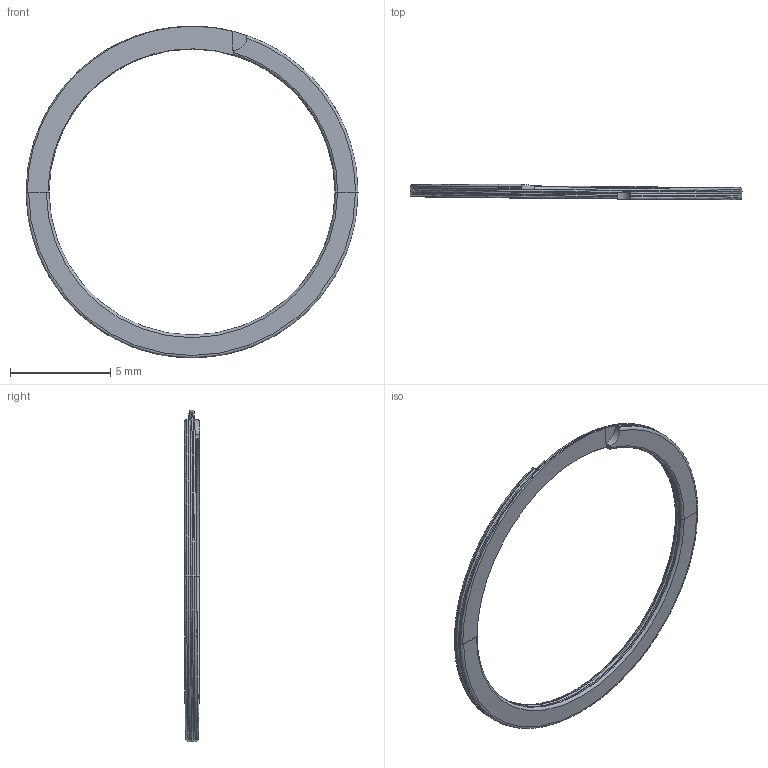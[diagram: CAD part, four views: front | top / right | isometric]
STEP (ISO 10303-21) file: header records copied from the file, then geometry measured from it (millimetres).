
FILE_DESCRIPTION (( 'STEP AP203' ), '1' );
FILE_NAME ('WH-62_Snap_Ring.STEP', '2020-12-18T22:10:05', ( '' ), ( '' ), 'SwSTEP 2.0', 'SolidWorks 2020', '' );
FILE_SCHEMA (( 'CONFIG_CONTROL_DESIGN' ));
Length unit declared in the file: inch
Products named in the file (1): WH-62_Snap_Ring
Bounding box: 16.54 x 0.75 x 16.54 mm (x, y, z)
Volume: 28.9 mm3; surface area: 157.5 mm2
Topology: 1 solids, 1 shells, 50 faces, 123 edges, 73 vertices
Faces by surface type: bspline 24, cone 12, plane 10, cylinder 4
Entity records: 2071 total; most frequent: CARTESIAN_POINT 937, ORIENTED_EDGE 246, DIRECTION 201, EDGE_CURVE 123, AXIS2_PLACEMENT_3D 88, VERTEX_POINT 73, CIRCLE 61, EDGE_LOOP 50
